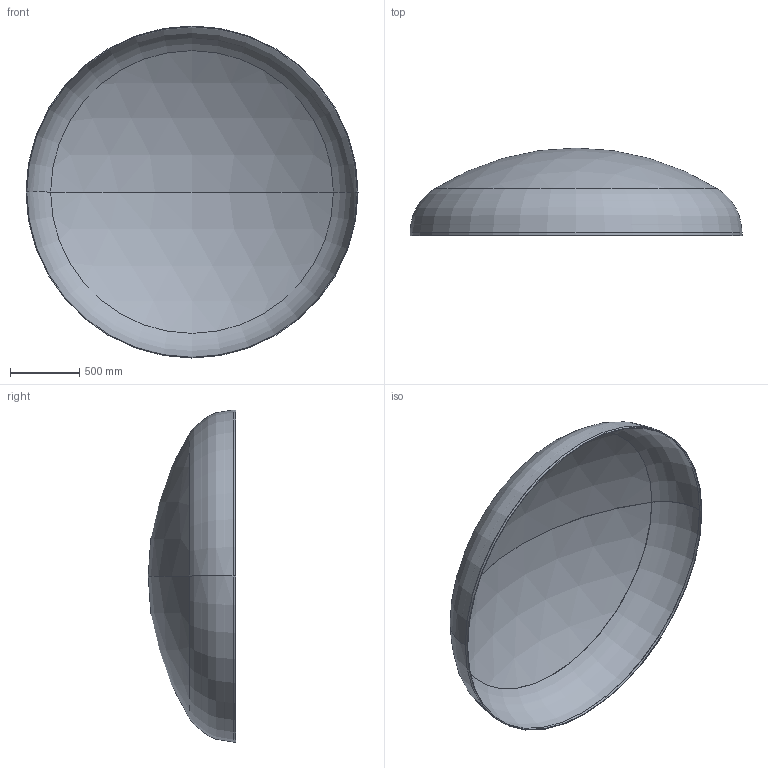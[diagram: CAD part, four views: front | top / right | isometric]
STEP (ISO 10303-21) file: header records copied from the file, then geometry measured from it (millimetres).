
FILE_DESCRIPTION (( 'STEP AP203' ), '1' );
FILE_NAME ('DIN 28013 Korbbogenform_-_Boden DIN 28013 - 2400 x 20 - I - s=5.step', '2016-07-01T15:01:40', ( '' ), ( '' ), 'SwSTEP 2.0', 'SolidWorks 2013', '' );
FILE_SCHEMA (( 'CONFIG_CONTROL_DESIGN' ));
Length unit declared in the file: millimetre
Products named in the file (1): DIN 28013 Korbbogenform_-_Boden DIN 28013 - 2400 x 20 - I - s=5
Bounding box: 2400 x 632.8 x 2400 mm (x, y, z)
Volume: 32003241.1 mm3; surface area: 12838964.1 mm2
Topology: 1 solids, 1 shells, 13 faces, 24 edges, 14 vertices
Faces by surface type: torus 4, cylinder 4, sphere 4, plane 1
Entity records: 407 total; most frequent: DIRECTION 72, CARTESIAN_POINT 52, ORIENTED_EDGE 48, AXIS2_PLACEMENT_3D 34, EDGE_CURVE 24, CIRCLE 20, VERTEX_POINT 14, EDGE_LOOP 14
